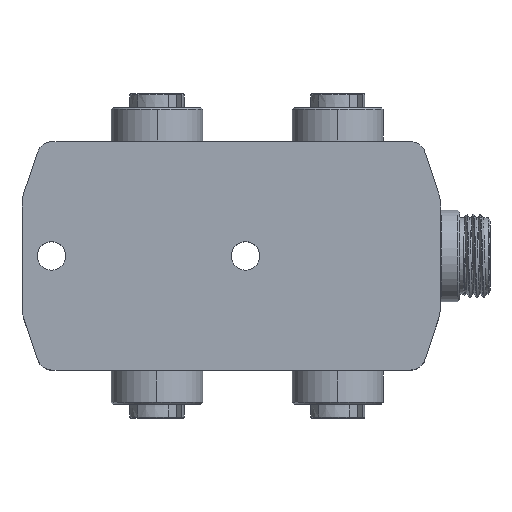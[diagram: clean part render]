
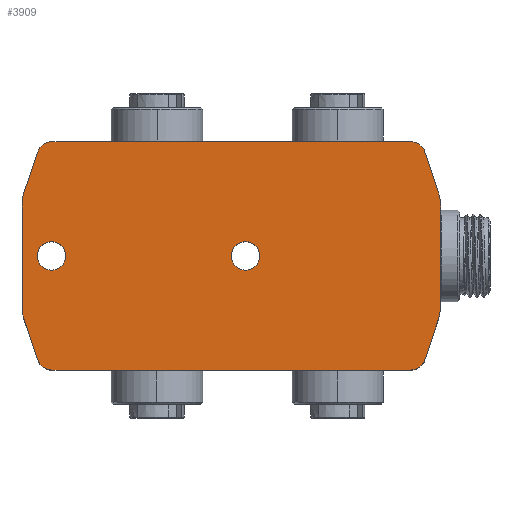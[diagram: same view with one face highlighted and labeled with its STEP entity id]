
A CAD part, top view. The second image highlights one B-rep face of the part: STEP entity #3909.
In plain terms, the highlighted planar face has unit normal (0, 0, 1).
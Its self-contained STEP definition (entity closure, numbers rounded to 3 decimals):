
#364=PLANE('',#42037);
#1755=FACE_BOUND('',#8801,.T.);
#1756=FACE_BOUND('',#8802,.T.);
#1757=FACE_BOUND('',#8803,.T.);
#3909=ADVANCED_FACE('',(#1755,#1756,#1757),#364,.T.);
#8801=EDGE_LOOP('',(#18155,#18156));
#8802=EDGE_LOOP('',(#18157,#18158));
#8803=EDGE_LOOP('',(#18159,#18160,#18161,#18162,#18163,#18164,#18165,#18166,
#18167,#18168,#18169,#18170,#18171,#18172,#18173,#18174));
#11487=LINE('',#58851,#14472);
#11810=LINE('',#59779,#14795);
#11813=LINE('',#59789,#14798);
#11814=LINE('',#59793,#14799);
#11815=LINE('',#59797,#14800);
#11816=LINE('',#59802,#14801);
#11817=LINE('',#59806,#14802);
#11818=LINE('',#59810,#14803);
#14472=VECTOR('',#46488,1.);
#14795=VECTOR('',#46899,1.);
#14798=VECTOR('',#46910,1.);
#14799=VECTOR('',#46913,1.);
#14800=VECTOR('',#46916,1.);
#14801=VECTOR('',#46921,1.);
#14802=VECTOR('',#46924,1.);
#14803=VECTOR('',#46927,1.);
#18155=ORIENTED_EDGE('',*,*,#33958,.F.);
#18156=ORIENTED_EDGE('',*,*,#33972,.F.);
#18157=ORIENTED_EDGE('',*,*,#33962,.F.);
#18158=ORIENTED_EDGE('',*,*,#33970,.F.);
#18159=ORIENTED_EDGE('',*,*,#34168,.F.);
#18160=ORIENTED_EDGE('',*,*,#34536,.T.);
#18161=ORIENTED_EDGE('',*,*,#34537,.T.);
#18162=ORIENTED_EDGE('',*,*,#34538,.T.);
#18163=ORIENTED_EDGE('',*,*,#34539,.F.);
#18164=ORIENTED_EDGE('',*,*,#34540,.T.);
#18165=ORIENTED_EDGE('',*,*,#34541,.T.);
#18166=ORIENTED_EDGE('',*,*,#34542,.F.);
#18167=ORIENTED_EDGE('',*,*,#34531,.F.);
#18168=ORIENTED_EDGE('',*,*,#34543,.T.);
#18169=ORIENTED_EDGE('',*,*,#34544,.T.);
#18170=ORIENTED_EDGE('',*,*,#34545,.T.);
#18171=ORIENTED_EDGE('',*,*,#34546,.T.);
#18172=ORIENTED_EDGE('',*,*,#34547,.T.);
#18173=ORIENTED_EDGE('',*,*,#34548,.T.);
#18174=ORIENTED_EDGE('',*,*,#34549,.T.);
#29961=VERTEX_POINT('',#58412);
#29962=VERTEX_POINT('',#58413);
#29965=VERTEX_POINT('',#58421);
#29966=VERTEX_POINT('',#58422);
#30167=VERTEX_POINT('',#58850);
#30168=VERTEX_POINT('',#58852);
#30471=VERTEX_POINT('',#59780);
#30472=VERTEX_POINT('',#59781);
#30473=VERTEX_POINT('',#59788);
#30474=VERTEX_POINT('',#59790);
#30475=VERTEX_POINT('',#59792);
#30476=VERTEX_POINT('',#59794);
#30477=VERTEX_POINT('',#59796);
#30478=VERTEX_POINT('',#59798);
#30479=VERTEX_POINT('',#59801);
#30480=VERTEX_POINT('',#59803);
#30481=VERTEX_POINT('',#59805);
#30482=VERTEX_POINT('',#59807);
#30483=VERTEX_POINT('',#59809);
#30484=VERTEX_POINT('',#59811);
#33958=EDGE_CURVE('',#29961,#29962,#39988,.T.);
#33962=EDGE_CURVE('',#29965,#29966,#39990,.T.);
#33970=EDGE_CURVE('',#29966,#29965,#39993,.T.);
#33972=EDGE_CURVE('',#29962,#29961,#39995,.T.);
#34168=EDGE_CURVE('',#30167,#30168,#11487,.T.);
#34531=EDGE_CURVE('',#30471,#30472,#11810,.T.);
#34536=EDGE_CURVE('',#30167,#30473,#40012,.T.);
#34537=EDGE_CURVE('',#30473,#30474,#11813,.T.);
#34538=EDGE_CURVE('',#30474,#30475,#40013,.T.);
#34539=EDGE_CURVE('',#30476,#30475,#11814,.T.);
#34540=EDGE_CURVE('',#30476,#30477,#40014,.T.);
#34541=EDGE_CURVE('',#30477,#30478,#11815,.T.);
#34542=EDGE_CURVE('',#30472,#30478,#40015,.T.);
#34543=EDGE_CURVE('',#30471,#30479,#40016,.T.);
#34544=EDGE_CURVE('',#30479,#30480,#11816,.T.);
#34545=EDGE_CURVE('',#30480,#30481,#40017,.T.);
#34546=EDGE_CURVE('',#30481,#30482,#11817,.T.);
#34547=EDGE_CURVE('',#30482,#30483,#40018,.T.);
#34548=EDGE_CURVE('',#30483,#30484,#11818,.T.);
#34549=EDGE_CURVE('',#30484,#30168,#40019,.T.);
#39988=CIRCLE('',#41965,3.75);
#39990=CIRCLE('',#41968,3.75);
#39993=CIRCLE('',#41973,3.75);
#39995=CIRCLE('',#41976,3.75);
#40012=CIRCLE('',#42029,4.);
#40013=CIRCLE('',#42030,10.);
#40014=CIRCLE('',#42031,10.);
#40015=CIRCLE('',#42032,4.);
#40016=CIRCLE('',#42033,4.);
#40017=CIRCLE('',#42034,10.);
#40018=CIRCLE('',#42035,10.);
#40019=CIRCLE('',#42036,4.);
#41965=AXIS2_PLACEMENT_3D('',#58411,#46256,#46257);
#41968=AXIS2_PLACEMENT_3D('',#58420,#46264,#46265);
#41973=AXIS2_PLACEMENT_3D('',#58447,#46278,#46279);
#41976=AXIS2_PLACEMENT_3D('',#58450,#46284,#46285);
#42029=AXIS2_PLACEMENT_3D('',#59787,#46908,#46909);
#42030=AXIS2_PLACEMENT_3D('',#59791,#46911,#46912);
#42031=AXIS2_PLACEMENT_3D('',#59795,#46914,#46915);
#42032=AXIS2_PLACEMENT_3D('',#59799,#46917,#46918);
#42033=AXIS2_PLACEMENT_3D('',#59800,#46919,#46920);
#42034=AXIS2_PLACEMENT_3D('',#59804,#46922,#46923);
#42035=AXIS2_PLACEMENT_3D('',#59808,#46925,#46926);
#42036=AXIS2_PLACEMENT_3D('',#59812,#46928,#46929);
#42037=AXIS2_PLACEMENT_3D('',#59813,#46930,#46931);
#46256=DIRECTION('',(0.,0.,1.));
#46257=DIRECTION('',(1.,0.,0.));
#46264=DIRECTION('',(0.,0.,1.));
#46265=DIRECTION('',(1.,0.,0.));
#46278=DIRECTION('',(0.,0.,1.));
#46279=DIRECTION('',(1.,0.,0.));
#46284=DIRECTION('',(0.,0.,1.));
#46285=DIRECTION('',(1.,0.,0.));
#46488=DIRECTION('',(-1.,0.,0.));
#46899=DIRECTION('',(1.,0.,0.));
#46908=DIRECTION('',(0.,0.,1.));
#46909=DIRECTION('',(1.,0.,0.));
#46910=DIRECTION('',(0.316,0.949,0.));
#46911=DIRECTION('',(0.,0.,1.));
#46912=DIRECTION('',(-1.,0.,0.));
#46913=DIRECTION('',(0.,-1.,0.));
#46914=DIRECTION('',(0.,0.,1.));
#46915=DIRECTION('',(1.,0.,0.));
#46916=DIRECTION('',(-0.316,0.949,0.));
#46917=DIRECTION('',(0.,0.,-1.));
#46918=DIRECTION('',(-1.,0.,0.));
#46919=DIRECTION('',(0.,0.,1.));
#46920=DIRECTION('',(1.,0.,0.));
#46921=DIRECTION('',(-0.316,-0.949,0.));
#46922=DIRECTION('',(0.,0.,1.));
#46923=DIRECTION('',(-1.,0.,0.));
#46924=DIRECTION('',(0.,-1.,0.));
#46925=DIRECTION('',(0.,0.,1.));
#46926=DIRECTION('',(1.,0.,0.));
#46927=DIRECTION('',(0.316,-0.949,0.));
#46928=DIRECTION('',(0.,0.,1.));
#46929=DIRECTION('',(-1.,0.,0.));
#46930=DIRECTION('',(0.,0.,1.));
#46931=DIRECTION('',(0.,-1.,0.));
#58411=CARTESIAN_POINT('',(3.75,0.,35.));
#58412=CARTESIAN_POINT('',(0.,0.,35.));
#58413=CARTESIAN_POINT('',(7.5,0.,35.));
#58420=CARTESIAN_POINT('',(-47.25,0.,35.));
#58421=CARTESIAN_POINT('',(-51.,0.,35.));
#58422=CARTESIAN_POINT('',(-43.5,0.,35.));
#58447=CARTESIAN_POINT('',(-47.25,0.,35.));
#58450=CARTESIAN_POINT('',(3.75,0.,35.));
#58850=CARTESIAN_POINT('',(47.117,-30.,35.));
#58851=CARTESIAN_POINT('',(-31.498,-30.,35.));
#58852=CARTESIAN_POINT('',(-47.115,-30.,35.));
#59779=CARTESIAN_POINT('',(40.002,30.,35.));
#59780=CARTESIAN_POINT('',(-47.115,30.,35.));
#59781=CARTESIAN_POINT('',(47.117,30.,35.));
#59787=CARTESIAN_POINT('',(47.117,-26.,35.));
#59788=CARTESIAN_POINT('',(50.912,-27.265,35.));
#59789=CARTESIAN_POINT('',(50.912,-27.265,35.));
#59790=CARTESIAN_POINT('',(54.487,-16.54,35.));
#59791=CARTESIAN_POINT('',(45.,-13.377,35.));
#59792=CARTESIAN_POINT('',(55.,-13.377,35.));
#59793=CARTESIAN_POINT('',(55.,-12.,35.));
#59794=CARTESIAN_POINT('',(55.,13.377,35.));
#59795=CARTESIAN_POINT('',(45.,13.377,35.));
#59796=CARTESIAN_POINT('',(54.487,16.54,35.));
#59797=CARTESIAN_POINT('',(54.487,16.54,35.));
#59798=CARTESIAN_POINT('',(50.912,27.265,35.));
#59799=CARTESIAN_POINT('',(47.117,26.,35.));
#59800=CARTESIAN_POINT('',(-47.115,26.,35.));
#59801=CARTESIAN_POINT('',(-50.91,27.265,35.));
#59802=CARTESIAN_POINT('',(-50.91,27.265,35.));
#59803=CARTESIAN_POINT('',(-54.485,16.54,35.));
#59804=CARTESIAN_POINT('',(-44.998,13.377,35.));
#59805=CARTESIAN_POINT('',(-54.998,13.377,35.));
#59806=CARTESIAN_POINT('',(-54.998,0.,35.));
#59807=CARTESIAN_POINT('',(-54.998,-13.377,35.));
#59808=CARTESIAN_POINT('',(-44.998,-13.377,35.));
#59809=CARTESIAN_POINT('',(-54.485,-16.54,35.));
#59810=CARTESIAN_POINT('',(-54.485,-16.54,35.));
#59811=CARTESIAN_POINT('',(-50.91,-27.265,35.));
#59812=CARTESIAN_POINT('',(-47.115,-26.,35.));
#59813=CARTESIAN_POINT('',(120.002,-28.,35.));
